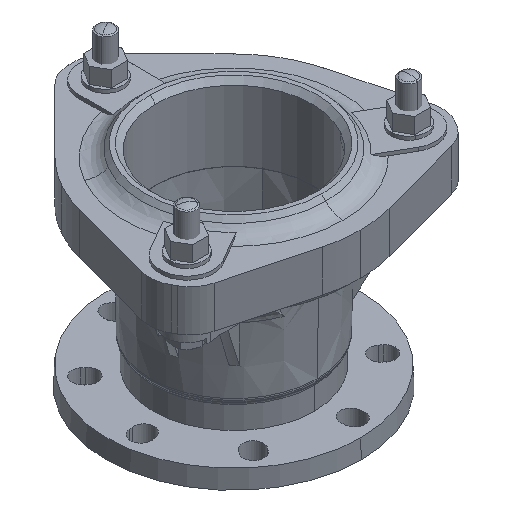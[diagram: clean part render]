
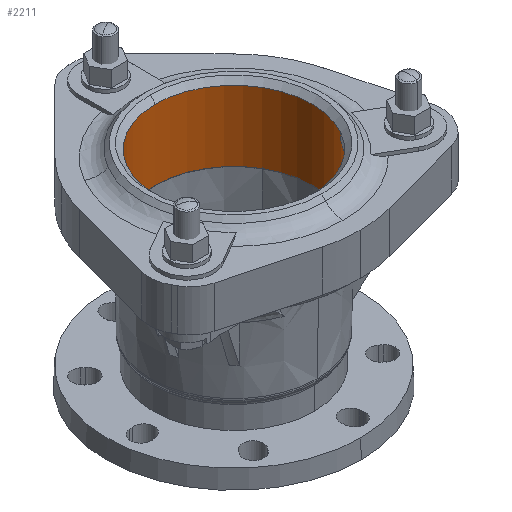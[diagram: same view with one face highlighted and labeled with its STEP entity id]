
A CAD part, isometric view. The second image highlights one B-rep face of the part: STEP entity #2211.
In plain terms, the highlighted cylindrical face has radius 67.5 mm (diameter 135 mm), a partial arc.
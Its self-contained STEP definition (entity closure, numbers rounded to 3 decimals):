
#685=CARTESIAN_POINT('',(0.,0.,41.93));
#686=DIRECTION('',(0.,0.,1.));
#687=DIRECTION('',(0.866,-0.5,0.));
#688=AXIS2_PLACEMENT_3D('',#685,#686,#687);
#703=CARTESIAN_POINT('',(0.,0.,41.93));
#704=DIRECTION('',(0.,0.,1.));
#705=DIRECTION('',(0.,1.,0.));
#706=AXIS2_PLACEMENT_3D('',#703,#704,#705);
#708=DIRECTION('',(0.,0.,-1.));
#709=VECTOR('',#708,18.59);
#710=CARTESIAN_POINT('',(-58.457,-33.75,0.));
#711=LINE('',#710,#709);
#712=CARTESIAN_POINT('',(0.,0.,0.));
#713=DIRECTION('',(0.,0.,-1.));
#714=DIRECTION('',(-0.866,-0.5,0.));
#715=AXIS2_PLACEMENT_3D('',#712,#713,#714);
#717=DIRECTION('',(0.,0.,1.));
#718=VECTOR('',#717,36.);
#719=CARTESIAN_POINT('',(-58.457,33.75,0.));
#720=LINE('',#719,#718);
#721=CARTESIAN_POINT('',(0.,0.,36.));
#722=DIRECTION('',(0.,0.,1.));
#723=DIRECTION('',(-0.866,0.5,0.));
#724=AXIS2_PLACEMENT_3D('',#721,#722,#723);
#726=DIRECTION('',(0.,0.,-1.));
#727=VECTOR('',#726,5.93);
#728=CARTESIAN_POINT('',(-58.457,-33.75,41.93));
#729=LINE('',#728,#727);
#740=CARTESIAN_POINT('',(0.,0.,36.));
#741=DIRECTION('',(0.,0.,1.));
#742=DIRECTION('',(0.,-1.,0.));
#743=AXIS2_PLACEMENT_3D('',#740,#741,#742);
#745=DIRECTION('',(0.,0.,-1.));
#746=VECTOR('',#745,5.93);
#747=CARTESIAN_POINT('',(58.457,-33.75,41.93));
#748=LINE('',#747,#746);
#759=DIRECTION('',(0.,0.,-1.));
#760=VECTOR('',#759,18.59);
#761=CARTESIAN_POINT('',(58.457,-33.75,0.));
#762=LINE('',#761,#760);
#763=CARTESIAN_POINT('',(0.,0.,0.));
#764=DIRECTION('',(0.,0.,1.));
#765=DIRECTION('',(0.,-1.,0.));
#766=AXIS2_PLACEMENT_3D('',#763,#764,#765);
#768=DIRECTION('',(0.,0.,1.));
#769=VECTOR('',#768,36.);
#770=CARTESIAN_POINT('',(0.,-67.5,0.));
#771=LINE('',#770,#769);
#777=CARTESIAN_POINT('',(0.,0.,-18.59));
#778=DIRECTION('',(0.,0.,1.));
#779=DIRECTION('',(0.,1.,0.));
#780=AXIS2_PLACEMENT_3D('',#777,#778,#779);
#782=CARTESIAN_POINT('',(0.,0.,-18.59));
#783=DIRECTION('',(0.,0.,1.));
#784=DIRECTION('',(0.866,-0.5,0.));
#785=AXIS2_PLACEMENT_3D('',#782,#783,#784);
#1096=CARTESIAN_POINT('',(-58.457,-33.75,41.93));
#1098=VERTEX_POINT('',#1096);
#1100=CARTESIAN_POINT('',(-58.457,-33.75,0.));
#1101=CARTESIAN_POINT('',(-58.457,-33.75,-18.59));
#1102=VERTEX_POINT('',#1100);
#1103=VERTEX_POINT('',#1101);
#1104=CARTESIAN_POINT('',(-58.457,33.75,0.));
#1105=VERTEX_POINT('',#1104);
#1106=CARTESIAN_POINT('',(-58.457,33.75,36.));
#1107=VERTEX_POINT('',#1106);
#1189=CARTESIAN_POINT('',(0.,-67.5,36.));
#1190=CARTESIAN_POINT('',(58.457,-33.75,36.));
#1191=VERTEX_POINT('',#1189);
#1192=VERTEX_POINT('',#1190);
#1195=CARTESIAN_POINT('',(58.457,-33.75,41.93));
#1196=CARTESIAN_POINT('',(0.,67.5,41.93));
#1197=VERTEX_POINT('',#1195);
#1198=VERTEX_POINT('',#1196);
#1203=CARTESIAN_POINT('',(0.,-67.5,0.));
#1204=VERTEX_POINT('',#1203);
#1211=CARTESIAN_POINT('',(-58.457,-33.75,36.));
#1212=VERTEX_POINT('',#1211);
#1231=CARTESIAN_POINT('',(58.457,-33.75,0.));
#1232=VERTEX_POINT('',#1231);
#1233=CARTESIAN_POINT('',(58.457,-33.75,-18.59));
#1234=VERTEX_POINT('',#1233);
#1235=CARTESIAN_POINT('',(0.,67.5,-18.59));
#1236=VERTEX_POINT('',#1235);
#2177=CARTESIAN_POINT('',(0.,0.,0.));
#2178=DIRECTION('',(0.,0.,1.));
#2179=DIRECTION('',(1.,0.,0.));
#2180=AXIS2_PLACEMENT_3D('',#2177,#2178,#2179);
#2181=CYLINDRICAL_SURFACE('',#2180,67.5);
#2183=ORIENTED_EDGE('',*,*,#2182,.F.);
#2184=ORIENTED_EDGE('',*,*,#2165,.F.);
#2186=ORIENTED_EDGE('',*,*,#2185,.T.);
#2188=ORIENTED_EDGE('',*,*,#2187,.F.);
#2190=ORIENTED_EDGE('',*,*,#2189,.F.);
#2192=ORIENTED_EDGE('',*,*,#2191,.T.);
#2194=ORIENTED_EDGE('',*,*,#2193,.T.);
#2196=ORIENTED_EDGE('',*,*,#2195,.T.);
#2198=ORIENTED_EDGE('',*,*,#2197,.T.);
#2200=ORIENTED_EDGE('',*,*,#2199,.F.);
#2202=ORIENTED_EDGE('',*,*,#2201,.T.);
#2204=ORIENTED_EDGE('',*,*,#2203,.T.);
#2206=ORIENTED_EDGE('',*,*,#2205,.T.);
#2208=ORIENTED_EDGE('',*,*,#2207,.F.);
#2209=EDGE_LOOP('',(#2183,#2184,#2186,#2188,#2190,#2192,#2194,#2196,#2198,#2200,
#2202,#2204,#2206,#2208));
#2210=FACE_OUTER_BOUND('',#2209,.F.);
#2211=ADVANCED_FACE('',(#2210),#2181,.F.);
#689=CIRCLE('',#688,67.5);
#707=CIRCLE('',#706,67.5);
#716=CIRCLE('',#715,67.5);
#725=CIRCLE('',#724,67.5);
#744=CIRCLE('',#743,67.5);
#767=CIRCLE('',#766,67.5);
#781=CIRCLE('',#780,67.5);
#786=CIRCLE('',#785,67.5);
#2165=EDGE_CURVE('',#1197,#1198,#689,.T.);
#2182=EDGE_CURVE('',#1198,#1098,#707,.T.);
#2185=EDGE_CURVE('',#1197,#1192,#748,.T.);
#2187=EDGE_CURVE('',#1191,#1192,#744,.T.);
#2189=EDGE_CURVE('',#1204,#1191,#771,.T.);
#2191=EDGE_CURVE('',#1204,#1232,#767,.T.);
#2193=EDGE_CURVE('',#1232,#1234,#762,.T.);
#2195=EDGE_CURVE('',#1234,#1236,#786,.T.);
#2197=EDGE_CURVE('',#1236,#1103,#781,.T.);
#2199=EDGE_CURVE('',#1102,#1103,#711,.T.);
#2201=EDGE_CURVE('',#1102,#1105,#716,.T.);
#2203=EDGE_CURVE('',#1105,#1107,#720,.T.);
#2205=EDGE_CURVE('',#1107,#1212,#725,.T.);
#2207=EDGE_CURVE('',#1098,#1212,#729,.T.);
